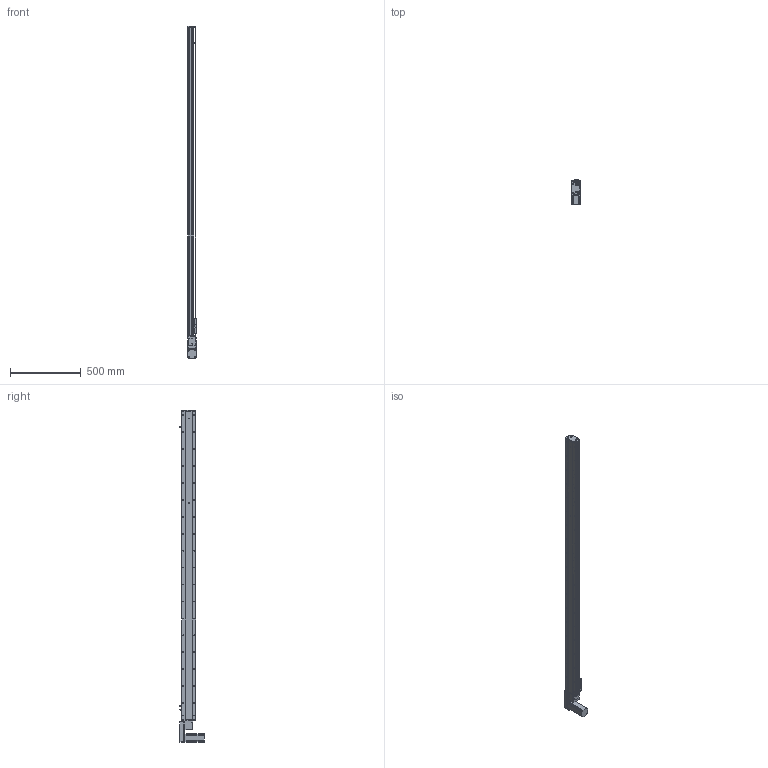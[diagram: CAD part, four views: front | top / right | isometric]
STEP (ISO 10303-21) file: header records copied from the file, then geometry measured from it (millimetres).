
FILE_DESCRIPTION (( 'STEP AP214' ), '1' );
FILE_NAME ('KSD100B-S2000-MLB-CM.STEP', '2019-08-31T02:36:10', ( '微软用户' ), ( '微软中国' ), 'SwSTEP 2.0', 'SolidWorks 2014', '' );
FILE_SCHEMA (( 'AUTOMOTIVE_DESIGN' ));
Length unit declared in the file: millimetre
Products named in the file (12): 悵誘欶奻狟殏; 100宽马达安装板连板上下折丝杆同步带; 台达ECMA－C20604AS伺服电机; U倰嫖萇EEㄜSX672; 覜茼え100遵圉猾敕; 100宽防尘板2000行程-同步带; 100宽马达安装板同步带左; 100宽同步带安装板半封闭; 100宽马达安装板同步带; 100遵傷啣肮祭湍; 100宽底板半封闭同步带2000行程; KSD100B-S2000-MLB-CM
Assembly tree (13 placements, depth 2):
  KSD100B-S2000-MLB-CM
    100宽底板半封闭同步带2000行程
    100遵傷啣肮祭湍
    100宽马达安装板同步带
    100宽同步带安装板半封闭
    100宽马达安装板同步带左
    100宽防尘板2000行程-同步带
    覜茼え100遵圉猾敕
    U倰嫖萇EEㄜSX672  x3
    台达ECMA－C20604AS伺服电机
    100宽马达安装板连板上下折丝杆同步带
    悵誘欶奻狟殏
Bounding box: 61 x 174.7 x 2353 mm (x, y, z)
Volume: 4621550.2 mm3; surface area: 1592382.8 mm2
Topology: 14 solids, 14 shells, 1767 faces, 5030 edges, 3157 vertices
Faces by surface type: cylinder 933, plane 627, cone 207
Entity records: 65683 total; most frequent: CARTESIAN_POINT 14444, DIRECTION 8802, ORIENTED_EDGE 8552, EDGE_CURVE 4276, AXIS2_PLACEMENT_3D 3253, VERTEX_POINT 2781, LINE 2296, VECTOR 2296
